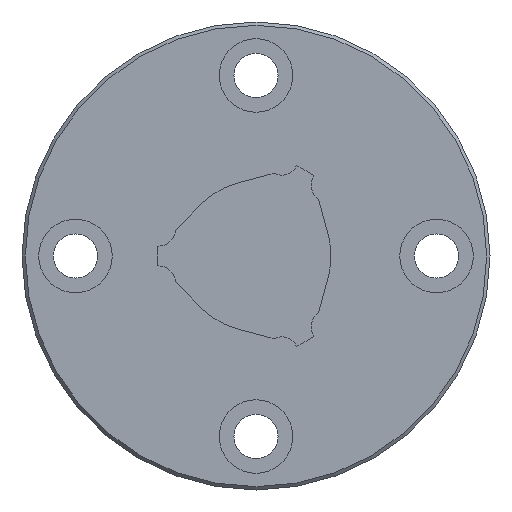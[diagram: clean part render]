
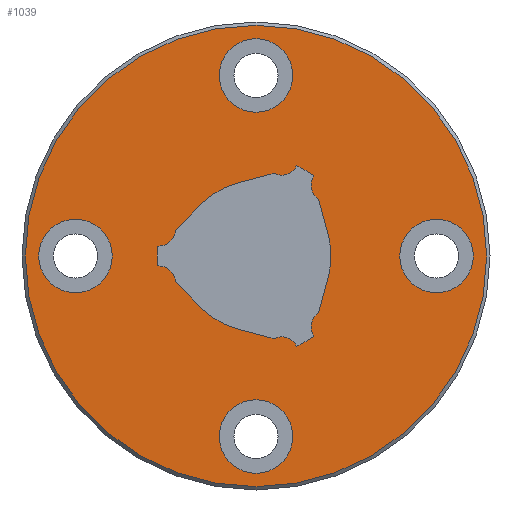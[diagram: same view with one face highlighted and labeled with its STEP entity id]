
A CAD part, left-side view. The second image highlights one B-rep face of the part: STEP entity #1039.
In plain terms, the highlighted planar face has unit normal (-1, 0, 0).
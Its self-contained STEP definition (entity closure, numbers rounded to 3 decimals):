
#45=PLANE('',#1156);
#91=LINE('',#1728,#151);
#92=LINE('',#1737,#152);
#93=LINE('',#1741,#153);
#94=LINE('',#1749,#154);
#95=LINE('',#1753,#155);
#96=LINE('',#1761,#156);
#151=VECTOR('',#1389,1000.);
#152=VECTOR('',#1396,1000.);
#153=VECTOR('',#1399,1000.);
#154=VECTOR('',#1406,1000.);
#155=VECTOR('',#1409,1000.);
#156=VECTOR('',#1416,1000.);
#289=ORIENTED_EDGE('',*,*,#513,.F.);
#290=ORIENTED_EDGE('',*,*,#514,.F.);
#291=ORIENTED_EDGE('',*,*,#515,.T.);
#292=ORIENTED_EDGE('',*,*,#516,.T.);
#293=ORIENTED_EDGE('',*,*,#517,.T.);
#294=ORIENTED_EDGE('',*,*,#518,.T.);
#295=ORIENTED_EDGE('',*,*,#519,.F.);
#296=ORIENTED_EDGE('',*,*,#520,.T.);
#297=ORIENTED_EDGE('',*,*,#521,.F.);
#298=ORIENTED_EDGE('',*,*,#522,.T.);
#299=ORIENTED_EDGE('',*,*,#523,.T.);
#300=ORIENTED_EDGE('',*,*,#524,.T.);
#301=ORIENTED_EDGE('',*,*,#525,.F.);
#302=ORIENTED_EDGE('',*,*,#526,.T.);
#303=ORIENTED_EDGE('',*,*,#527,.F.);
#304=ORIENTED_EDGE('',*,*,#528,.T.);
#305=ORIENTED_EDGE('',*,*,#529,.T.);
#306=ORIENTED_EDGE('',*,*,#530,.T.);
#307=ORIENTED_EDGE('',*,*,#531,.F.);
#308=ORIENTED_EDGE('',*,*,#532,.T.);
#309=ORIENTED_EDGE('',*,*,#533,.F.);
#310=ORIENTED_EDGE('',*,*,#534,.T.);
#311=ORIENTED_EDGE('',*,*,#535,.T.);
#513=EDGE_CURVE('',#634,#634,#725,.T.);
#514=EDGE_CURVE('',#635,#635,#726,.F.);
#515=EDGE_CURVE('',#636,#636,#727,.T.);
#516=EDGE_CURVE('',#637,#637,#728,.T.);
#517=EDGE_CURVE('',#638,#638,#729,.T.);
#518=EDGE_CURVE('',#639,#640,#91,.T.);
#519=EDGE_CURVE('',#641,#640,#730,.T.);
#520=EDGE_CURVE('',#641,#642,#731,.T.);
#521=EDGE_CURVE('',#643,#642,#732,.T.);
#522=EDGE_CURVE('',#643,#644,#92,.T.);
#523=EDGE_CURVE('',#644,#645,#733,.T.);
#524=EDGE_CURVE('',#645,#646,#93,.T.);
#525=EDGE_CURVE('',#647,#646,#734,.T.);
#526=EDGE_CURVE('',#647,#648,#735,.T.);
#527=EDGE_CURVE('',#649,#648,#736,.T.);
#528=EDGE_CURVE('',#649,#650,#94,.T.);
#529=EDGE_CURVE('',#650,#651,#737,.T.);
#530=EDGE_CURVE('',#651,#652,#95,.T.);
#531=EDGE_CURVE('',#653,#652,#738,.T.);
#532=EDGE_CURVE('',#653,#654,#739,.T.);
#533=EDGE_CURVE('',#655,#654,#740,.T.);
#534=EDGE_CURVE('',#655,#656,#96,.T.);
#535=EDGE_CURVE('',#656,#639,#741,.T.);
#634=VERTEX_POINT('',#1719);
#635=VERTEX_POINT('',#1721);
#636=VERTEX_POINT('',#1723);
#637=VERTEX_POINT('',#1725);
#638=VERTEX_POINT('',#1727);
#639=VERTEX_POINT('',#1729);
#640=VERTEX_POINT('',#1730);
#641=VERTEX_POINT('',#1732);
#642=VERTEX_POINT('',#1734);
#643=VERTEX_POINT('',#1736);
#644=VERTEX_POINT('',#1738);
#645=VERTEX_POINT('',#1740);
#646=VERTEX_POINT('',#1742);
#647=VERTEX_POINT('',#1744);
#648=VERTEX_POINT('',#1746);
#649=VERTEX_POINT('',#1748);
#650=VERTEX_POINT('',#1750);
#651=VERTEX_POINT('',#1752);
#652=VERTEX_POINT('',#1754);
#653=VERTEX_POINT('',#1756);
#654=VERTEX_POINT('',#1758);
#655=VERTEX_POINT('',#1760);
#656=VERTEX_POINT('',#1762);
#725=CIRCLE('',#1157,34.5);
#726=CIRCLE('',#1158,5.5);
#727=CIRCLE('',#1159,5.5);
#728=CIRCLE('',#1160,5.5);
#729=CIRCLE('',#1161,5.5);
#730=CIRCLE('',#1162,2.48);
#731=CIRCLE('',#1163,14.8);
#732=CIRCLE('',#1164,2.48);
#733=CIRCLE('',#1165,11.25);
#734=CIRCLE('',#1166,2.48);
#735=CIRCLE('',#1167,14.8);
#736=CIRCLE('',#1168,2.48);
#737=CIRCLE('',#1169,11.25);
#738=CIRCLE('',#1170,2.48);
#739=CIRCLE('',#1171,14.8);
#740=CIRCLE('',#1172,2.48);
#741=CIRCLE('',#1173,11.25);
#797=EDGE_LOOP('',(#289));
#798=EDGE_LOOP('',(#290));
#799=EDGE_LOOP('',(#291));
#800=EDGE_LOOP('',(#292));
#801=EDGE_LOOP('',(#293));
#802=EDGE_LOOP('',(#294,#295,#296,#297,#298,#299,#300,#301,#302,#303,#304,
#305,#306,#307,#308,#309,#310,#311));
#899=FACE_BOUND('',#797,.T.);
#900=FACE_BOUND('',#798,.T.);
#901=FACE_BOUND('',#799,.T.);
#902=FACE_BOUND('',#800,.T.);
#903=FACE_BOUND('',#801,.T.);
#904=FACE_BOUND('',#802,.T.);
#1039=ADVANCED_FACE('',(#899,#900,#901,#902,#903,#904),#45,.F.);
#1156=AXIS2_PLACEMENT_3D('',#1717,#1377,#1378);
#1157=AXIS2_PLACEMENT_3D('',#1718,#1379,#1380);
#1158=AXIS2_PLACEMENT_3D('',#1720,#1381,#1382);
#1159=AXIS2_PLACEMENT_3D('',#1722,#1383,#1384);
#1160=AXIS2_PLACEMENT_3D('',#1724,#1385,#1386);
#1161=AXIS2_PLACEMENT_3D('',#1726,#1387,#1388);
#1162=AXIS2_PLACEMENT_3D('',#1731,#1390,#1391);
#1163=AXIS2_PLACEMENT_3D('',#1733,#1392,#1393);
#1164=AXIS2_PLACEMENT_3D('',#1735,#1394,#1395);
#1165=AXIS2_PLACEMENT_3D('',#1739,#1397,#1398);
#1166=AXIS2_PLACEMENT_3D('',#1743,#1400,#1401);
#1167=AXIS2_PLACEMENT_3D('',#1745,#1402,#1403);
#1168=AXIS2_PLACEMENT_3D('',#1747,#1404,#1405);
#1169=AXIS2_PLACEMENT_3D('',#1751,#1407,#1408);
#1170=AXIS2_PLACEMENT_3D('',#1755,#1410,#1411);
#1171=AXIS2_PLACEMENT_3D('',#1757,#1412,#1413);
#1172=AXIS2_PLACEMENT_3D('',#1759,#1414,#1415);
#1173=AXIS2_PLACEMENT_3D('',#1763,#1417,#1418);
#1377=DIRECTION('',(1.,0.,0.));
#1378=DIRECTION('',(0.,0.,-1.));
#1379=DIRECTION('',(1.,0.,0.));
#1380=DIRECTION('',(0.,0.,-1.));
#1381=DIRECTION('',(1.,0.,0.));
#1382=DIRECTION('',(0.,0.,-1.));
#1383=DIRECTION('',(1.,0.,0.));
#1384=DIRECTION('',(0.,0.,-1.));
#1385=DIRECTION('',(1.,0.,0.));
#1386=DIRECTION('',(0.,0.,-1.));
#1387=DIRECTION('',(1.,0.,0.));
#1388=DIRECTION('',(0.,0.,-1.));
#1389=DIRECTION('',(0.,-0.966,0.259));
#1390=DIRECTION('',(1.,0.,0.));
#1391=DIRECTION('',(0.,0.,-1.));
#1392=DIRECTION('',(1.,0.,0.));
#1393=DIRECTION('',(0.,0.,-1.));
#1394=DIRECTION('',(1.,0.,0.));
#1395=DIRECTION('',(0.,0.,-1.));
#1396=DIRECTION('',(0.,-0.259,-0.966));
#1397=DIRECTION('',(1.,0.,0.));
#1398=DIRECTION('',(0.,0.,-1.));
#1399=DIRECTION('',(0.,0.259,-0.966));
#1400=DIRECTION('',(1.,0.,0.));
#1401=DIRECTION('',(0.,0.,-1.));
#1402=DIRECTION('',(1.,0.,0.));
#1403=DIRECTION('',(0.,0.,-1.));
#1404=DIRECTION('',(1.,0.,0.));
#1405=DIRECTION('',(0.,0.,-1.));
#1406=DIRECTION('',(0.,0.966,0.259));
#1407=DIRECTION('',(1.,0.,0.));
#1408=DIRECTION('',(0.,0.,-1.));
#1409=DIRECTION('',(0.,0.707,0.707));
#1410=DIRECTION('',(1.,0.,0.));
#1411=DIRECTION('',(0.,0.,-1.));
#1412=DIRECTION('',(1.,0.,0.));
#1413=DIRECTION('',(0.,0.,-1.));
#1414=DIRECTION('',(1.,0.,0.));
#1415=DIRECTION('',(0.,0.,-1.));
#1416=DIRECTION('',(0.,-0.707,0.707));
#1417=DIRECTION('',(1.,0.,0.));
#1418=DIRECTION('',(0.,0.,-1.));
#1717=CARTESIAN_POINT('',(0.,0.,0.));
#1718=CARTESIAN_POINT('',(0.,0.,0.));
#1719=CARTESIAN_POINT('',(0.,0.,-34.5));
#1720=CARTESIAN_POINT('',(0.,27.,0.));
#1721=CARTESIAN_POINT('',(0.,27.,-5.5));
#1722=CARTESIAN_POINT('',(0.,0.,27.));
#1723=CARTESIAN_POINT('',(0.,0.,21.5));
#1724=CARTESIAN_POINT('',(0.,-27.,0.));
#1725=CARTESIAN_POINT('',(0.,-27.,-5.5));
#1726=CARTESIAN_POINT('',(0.,0.,-27.));
#1727=CARTESIAN_POINT('',(0.,0.,-32.5));
#1728=CARTESIAN_POINT('',(0.,2.912,10.867));
#1729=CARTESIAN_POINT('',(0.,2.912,10.867));
#1730=CARTESIAN_POINT('',(0.,-2.698,12.37));
#1731=CARTESIAN_POINT('',(0.,-3.833,14.574));
#1732=CARTESIAN_POINT('',(0.,-6.068,13.499));
#1733=CARTESIAN_POINT('',(0.,0.,0.));
#1734=CARTESIAN_POINT('',(0.,-8.656,12.005));
#1735=CARTESIAN_POINT('',(0.,-10.705,10.607));
#1736=CARTESIAN_POINT('',(0.,-9.364,8.521));
#1737=CARTESIAN_POINT('',(0.,-9.364,8.521));
#1738=CARTESIAN_POINT('',(0.,-10.867,2.912));
#1739=CARTESIAN_POINT('',(0.,0.,0.));
#1740=CARTESIAN_POINT('',(0.,-10.867,-2.912));
#1741=CARTESIAN_POINT('',(0.,-10.867,-2.912));
#1742=CARTESIAN_POINT('',(0.,-9.364,-8.521));
#1743=CARTESIAN_POINT('',(0.,-10.705,-10.607));
#1744=CARTESIAN_POINT('',(0.,-8.656,-12.005));
#1745=CARTESIAN_POINT('',(0.,0.,0.));
#1746=CARTESIAN_POINT('',(0.,-6.068,-13.499));
#1747=CARTESIAN_POINT('',(0.,-3.833,-14.574));
#1748=CARTESIAN_POINT('',(0.,-2.698,-12.37));
#1749=CARTESIAN_POINT('',(0.,-2.698,-12.37));
#1750=CARTESIAN_POINT('',(0.,2.912,-10.867));
#1751=CARTESIAN_POINT('',(0.,0.,0.));
#1752=CARTESIAN_POINT('',(0.,7.955,-7.955));
#1753=CARTESIAN_POINT('',(0.,7.955,-7.955));
#1754=CARTESIAN_POINT('',(0.,12.061,-3.849));
#1755=CARTESIAN_POINT('',(0.,14.538,-3.967));
#1756=CARTESIAN_POINT('',(0.,14.724,-1.494));
#1757=CARTESIAN_POINT('',(0.,0.,0.));
#1758=CARTESIAN_POINT('',(0.,14.724,1.494));
#1759=CARTESIAN_POINT('',(0.,14.538,3.967));
#1760=CARTESIAN_POINT('',(0.,12.061,3.849));
#1761=CARTESIAN_POINT('',(0.,12.061,3.849));
#1762=CARTESIAN_POINT('',(0.,7.955,7.955));
#1763=CARTESIAN_POINT('',(0.,0.,0.));
